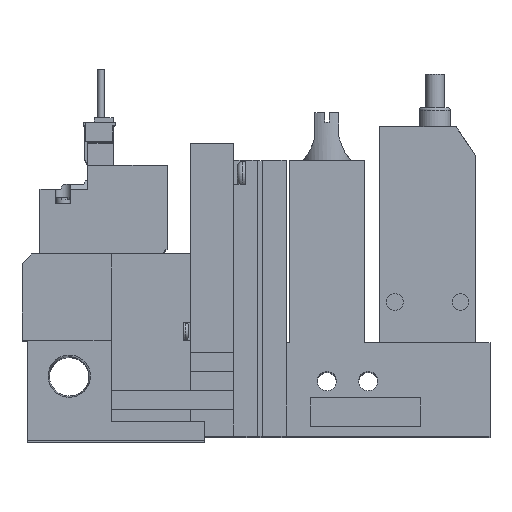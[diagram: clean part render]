
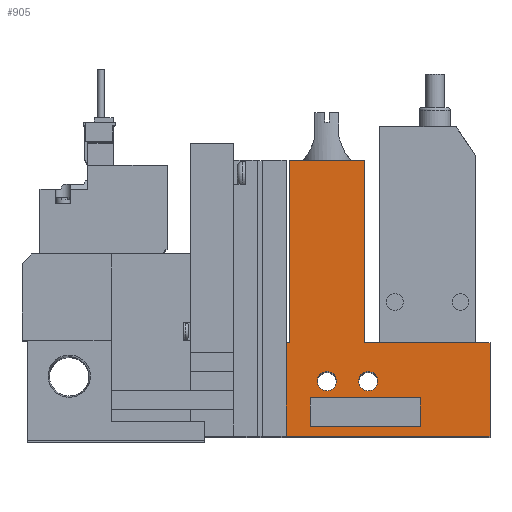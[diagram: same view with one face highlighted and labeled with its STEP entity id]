
A CAD part, top view. The second image highlights one B-rep face of the part: STEP entity #905.
In plain terms, the highlighted planar face has unit normal (0, 0, 1).
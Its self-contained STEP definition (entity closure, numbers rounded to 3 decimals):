
#905=ADVANCED_FACE('',(#1806,#1807,#1808,#1809),#1810,.T.);
#1806=FACE_BOUND('',#3048,.T.);
#1807=FACE_BOUND('',#3049,.T.);
#1808=FACE_BOUND('',#3050,.T.);
#1809=FACE_OUTER_BOUND('',#3051,.T.);
#1810=PLANE('',#3052);
#3048=EDGE_LOOP('',(#6251,#6252,#6253,#6254));
#3049=EDGE_LOOP('',(#6255));
#3050=EDGE_LOOP('',(#6256));
#3051=EDGE_LOOP('',(#6257,#6258,#6259,#6260,#6261,#6262,#6263,#6264));
#3052=AXIS2_PLACEMENT_3D('',#6265,#6266,#6267);
#6251=ORIENTED_EDGE('',*,*,#8537,.T.);
#6252=ORIENTED_EDGE('',*,*,#8523,.T.);
#6253=ORIENTED_EDGE('',*,*,#8396,.T.);
#6254=ORIENTED_EDGE('',*,*,#8552,.T.);
#6255=ORIENTED_EDGE('',*,*,#8482,.T.);
#6256=ORIENTED_EDGE('',*,*,#8549,.T.);
#6257=ORIENTED_EDGE('',*,*,#8518,.F.);
#6258=ORIENTED_EDGE('',*,*,#8512,.T.);
#6259=ORIENTED_EDGE('',*,*,#8553,.T.);
#6260=ORIENTED_EDGE('',*,*,#8554,.T.);
#6261=ORIENTED_EDGE('',*,*,#8421,.T.);
#6262=ORIENTED_EDGE('',*,*,#8418,.T.);
#6263=ORIENTED_EDGE('',*,*,#8425,.T.);
#6264=ORIENTED_EDGE('',*,*,#8555,.T.);
#6265=CARTESIAN_POINT('',(0.0,0.0,10.0));
#6266=DIRECTION('',(0.0,0.0,1.0));
#6267=DIRECTION('',(1.0,0.0,0.0));
#8396=EDGE_CURVE('',#10167,#10172,#10174,.T.);
#8418=EDGE_CURVE('',#10212,#10210,#10213,.T.);
#8421=EDGE_CURVE('',#10217,#10212,#10218,.T.);
#8425=EDGE_CURVE('',#10210,#10222,#10224,.T.);
#8482=EDGE_CURVE('',#10314,#10314,#10315,.T.);
#8512=EDGE_CURVE('',#10360,#10358,#10361,.T.);
#8518=EDGE_CURVE('',#10360,#10368,#10369,.T.);
#8523=EDGE_CURVE('',#10372,#10167,#10376,.T.);
#8537=EDGE_CURVE('',#10398,#10372,#10400,.T.);
#8549=EDGE_CURVE('',#10418,#10418,#10419,.T.);
#8552=EDGE_CURVE('',#10172,#10398,#10423,.T.);
#8553=EDGE_CURVE('',#10358,#10424,#10425,.T.);
#8554=EDGE_CURVE('',#10424,#10217,#10426,.T.);
#8555=EDGE_CURVE('',#10222,#10368,#10427,.T.);
#10167=VERTEX_POINT('',#13005);
#10172=VERTEX_POINT('',#13012);
#10174=LINE('',#13015,#13016);
#10210=VERTEX_POINT('',#13090);
#10212=VERTEX_POINT('',#13093);
#10213=LINE('',#13094,#13095);
#10217=VERTEX_POINT('',#13101);
#10218=LINE('',#13102,#13103);
#10222=VERTEX_POINT('',#13109);
#10224=LINE('',#13112,#13113);
#10314=VERTEX_POINT('',#13282);
#10315=CIRCLE('',#13283,2.0);
#10358=VERTEX_POINT('',#13352);
#10360=VERTEX_POINT('',#13355);
#10361=LINE('',#13356,#13357);
#10368=VERTEX_POINT('',#13369);
#10369=LINE('',#13370,#13371);
#10372=VERTEX_POINT('',#13376);
#10376=LINE('',#13382,#13383);
#10398=VERTEX_POINT('',#13415);
#10400=LINE('',#13418,#13419);
#10418=VERTEX_POINT('',#13447);
#10419=CIRCLE('',#13448,2.0);
#10423=LINE('',#13454,#13455);
#10424=VERTEX_POINT('',#13456);
#10425=LINE('',#13457,#13458);
#10426=LINE('',#13459,#13460);
#10427=LINE('',#13461,#13462);
#13005=CARTESIAN_POINT('',(83.1,8.0,10.0));
#13012=CARTESIAN_POINT('',(83.1,2.0,10.0));
#13015=CARTESIAN_POINT('',(83.1,0.0,10.0));
#13016=VECTOR('',#15478,1.0);
#13090=CARTESIAN_POINT('',(55.75,57.5,10.0));
#13093=CARTESIAN_POINT('',(71.45,57.5,10.0));
#13094=CARTESIAN_POINT('',(71.45,57.5,10.0));
#13095=VECTOR('',#15507,1.0);
#13101=CARTESIAN_POINT('',(71.45,19.5,10.0));
#13102=CARTESIAN_POINT('',(71.45,19.5,10.0));
#13103=VECTOR('',#15510,1.0);
#13109=CARTESIAN_POINT('',(55.75,19.5,10.0));
#13112=CARTESIAN_POINT('',(55.75,57.5,10.0));
#13113=VECTOR('',#15514,1.0);
#13282=CARTESIAN_POINT('',(65.6,11.5,10.0));
#13283=AXIS2_PLACEMENT_3D('',#15576,#15577,#15578);
#13352=CARTESIAN_POINT('',(97.6,0.0,10.0));
#13355=CARTESIAN_POINT('',(55.1,0.0,10.0));
#13356=CARTESIAN_POINT('',(18.6,0.0,10.0));
#13357=VECTOR('',#15609,1.0);
#13369=CARTESIAN_POINT('',(55.1,19.5,10.0));
#13370=CARTESIAN_POINT('',(55.1,0.0,10.0));
#13371=VECTOR('',#15615,1.0);
#13376=CARTESIAN_POINT('',(60.1,8.0,10.0));
#13382=CARTESIAN_POINT('',(0.0,8.0,10.0));
#13383=VECTOR('',#15620,1.0);
#13415=CARTESIAN_POINT('',(60.1,2.0,10.0));
#13418=CARTESIAN_POINT('',(60.1,0.0,10.0));
#13419=VECTOR('',#15638,1.0);
#13447=CARTESIAN_POINT('',(74.2,11.5,10.0));
#13448=AXIS2_PLACEMENT_3D('',#15652,#15653,#15654);
#13454=CARTESIAN_POINT('',(0.0,2.0,10.0));
#13455=VECTOR('',#15657,1.0);
#13456=CARTESIAN_POINT('',(97.6,19.5,10.0));
#13457=CARTESIAN_POINT('',(97.6,0.0,10.0));
#13458=VECTOR('',#15658,1.0);
#13459=CARTESIAN_POINT('',(97.6,19.5,10.0));
#13460=VECTOR('',#15659,1.0);
#13461=CARTESIAN_POINT('',(55.75,19.5,10.0));
#13462=VECTOR('',#15660,1.0);
#15478=DIRECTION('',(0.0,-1.0,0.0));
#15507=DIRECTION('',(-1.0,0.0,0.0));
#15510=DIRECTION('',(0.0,1.0,0.0));
#15514=DIRECTION('',(0.0,-1.0,0.0));
#15576=CARTESIAN_POINT('',(63.6,11.5,10.0));
#15577=DIRECTION('',(0.0,0.0,-1.0));
#15578=DIRECTION('',(1.0,0.0,0.0));
#15609=DIRECTION('',(1.0,0.0,0.0));
#15615=DIRECTION('',(0.0,1.0,0.0));
#15620=DIRECTION('',(1.0,0.0,0.0));
#15638=DIRECTION('',(0.0,1.0,0.0));
#15652=CARTESIAN_POINT('',(72.2,11.5,10.0));
#15653=DIRECTION('',(0.0,0.0,-1.0));
#15654=DIRECTION('',(1.0,0.0,0.0));
#15657=DIRECTION('',(-1.0,0.0,0.0));
#15658=DIRECTION('',(0.0,1.0,0.0));
#15659=DIRECTION('',(-1.0,0.0,0.0));
#15660=DIRECTION('',(-1.0,0.0,0.0));
